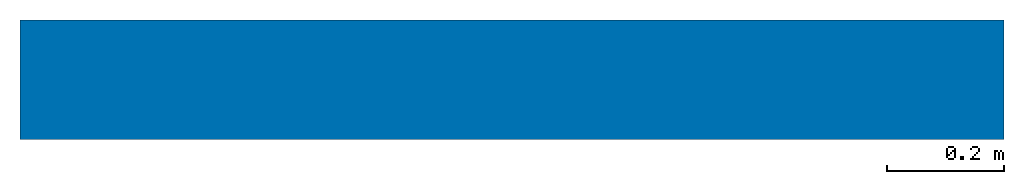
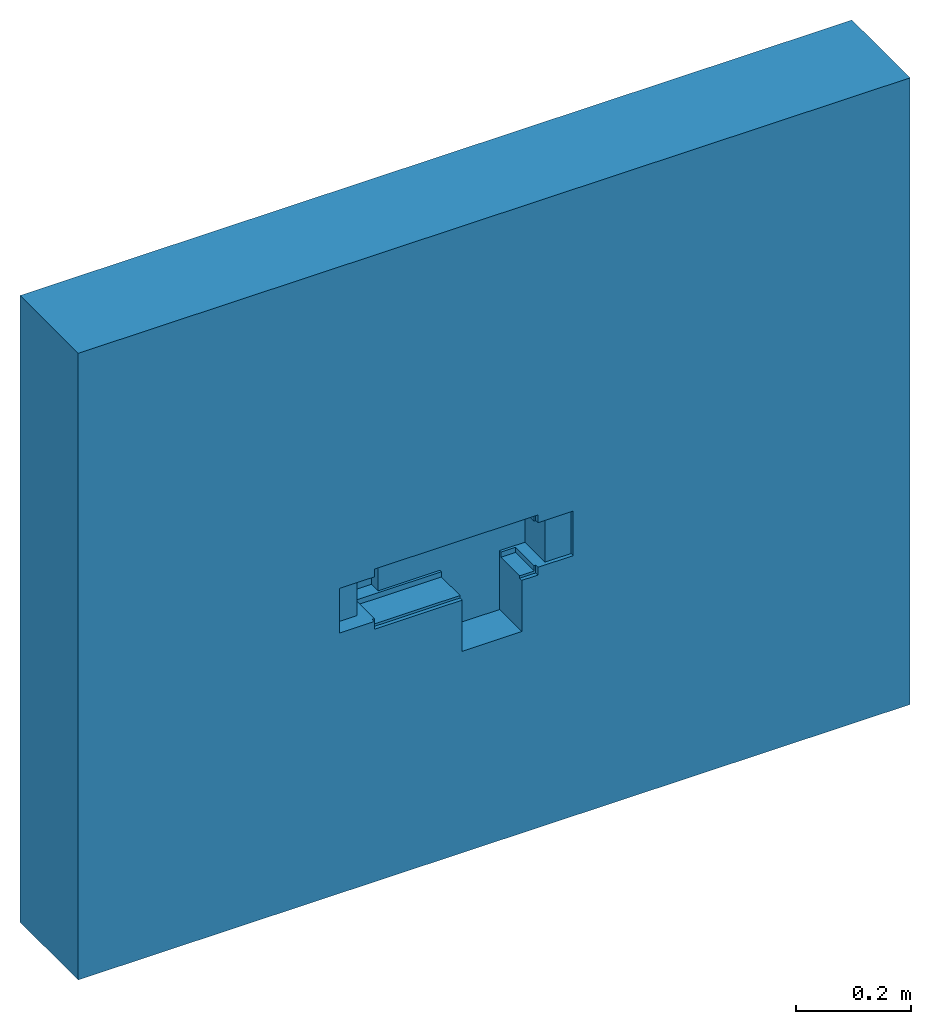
# One storey: 1 wall, 1 opening.
"""IFC2X3 building model written with IfcOpenShell, lengths in feet."""

from ifc_helpers import new_model, entity, si_unit, converted_unit, derived_unit, direction, frame, frame_2d, origin, place, context, subcontext, project, spatial, rectangle, extrude, faceted_brep, material, layer, layer_set, layer_usage, type_object, element, save


model = new_model("IFC2X3")

# Units and contexts
model_context = context("Model", 3, precision=0.0001, world=origin(), true_north=direction((6.12303176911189e-17, 1.0)))
body_context = subcontext(model_context, "Body", "Model", "MODEL_VIEW")
ifc_project = project(units=[converted_unit("LENGTHUNIT", "FOOT", entity("IfcRatioMeasure", 0.3048), si_unit("LENGTHUNIT", "METRE"), dimensions=[1, 0, 0, 0, 0, 0, 0]), converted_unit("AREAUNIT", "SQUARE FOOT", entity("IfcRatioMeasure", 0.09290304), si_unit("AREAUNIT", "SQUARE_METRE"), dimensions=[2, 0, 0, 0, 0, 0, 0]), converted_unit("VOLUMEUNIT", "CUBIC FOOT", entity("IfcRatioMeasure", 0.028316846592), si_unit("VOLUMEUNIT", "CUBIC_METRE"), dimensions=[3, 0, 0, 0, 0, 0, 0]), converted_unit("PLANEANGLEUNIT", "DEGREE", entity("IfcRatioMeasure", 0.0174532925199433), si_unit("PLANEANGLEUNIT", "RADIAN"), dimensions=[0, 0, 0, 0, 0, 0, 0]), si_unit("MASSUNIT", "GRAM", prefix="KILO"), derived_unit("MASSDENSITYUNIT", [(si_unit("MASSUNIT", "GRAM", prefix="KILO"), 1), (si_unit("LENGTHUNIT", "METRE"), -3)]), si_unit("TIMEUNIT", "SECOND"), si_unit("FREQUENCYUNIT", "HERTZ"), si_unit("THERMODYNAMICTEMPERATUREUNIT", "DEGREE_CELSIUS"), derived_unit("THERMALTRANSMITTANCEUNIT", [(si_unit("MASSUNIT", "GRAM", prefix="KILO"), 1), (si_unit("THERMODYNAMICTEMPERATUREUNIT", "KELVIN"), -1), (si_unit("TIMEUNIT", "SECOND"), -3)]), derived_unit("VOLUMETRICFLOWRATEUNIT", [(si_unit("LENGTHUNIT", "METRE"), 3), (si_unit("TIMEUNIT", "SECOND"), -1)]), si_unit("ELECTRICCURRENTUNIT", "AMPERE"), si_unit("ELECTRICVOLTAGEUNIT", "VOLT"), si_unit("POWERUNIT", "WATT"), si_unit("FORCEUNIT", "NEWTON"), si_unit("ILLUMINANCEUNIT", "LUX"), si_unit("LUMINOUSFLUXUNIT", "LUMEN"), si_unit("LUMINOUSINTENSITYUNIT", "CANDELA"), derived_unit("USERDEFINED", [(si_unit("MASSUNIT", "GRAM", prefix="KILO"), -1), (si_unit("LENGTHUNIT", "METRE"), -2), (si_unit("TIMEUNIT", "SECOND"), 3), (si_unit("LUMINOUSFLUXUNIT", "LUMEN"), 1)]), derived_unit("LINEARVELOCITYUNIT", [(si_unit("LENGTHUNIT", "METRE"), 1), (si_unit("TIMEUNIT", "SECOND"), -1)]), si_unit("PRESSUREUNIT", "PASCAL"), derived_unit("USERDEFINED", [(si_unit("LENGTHUNIT", "METRE"), -2), (si_unit("MASSUNIT", "GRAM", prefix="KILO"), 1), (si_unit("TIMEUNIT", "SECOND"), -2)])], contexts=[model_context])

# Site, building, storey
site_placement = place(None, origin())
site = spatial("IfcSite", under=ifc_project, at=site_placement, Name="Default", CompositionType="ELEMENT")
building_placement = place(site_placement, origin())
building = spatial("IfcBuilding", under=site, at=building_placement, CompositionType="ELEMENT")
storey_placement = place(building_placement, origin())
storey = spatial("IfcBuildingStorey", under=building, at=storey_placement, Name="Level 1", CompositionType="ELEMENT", Elevation=0.0)

# Wall, opening
ifc_material = material(Name="Default Wall")
ifc_layer = layer(ifc_material, 0.666666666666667)
ifc_layer_set = layer_set([ifc_layer], Name="Basic Wall:Generic - 8\"")
ifc_layer_usage = layer_usage(ifc_layer_set, "AXIS2", "NEGATIVE", 0.333333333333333)
wall_type = type_object("IfcWallType", Name="Basic Wall:Generic - 8\"", PredefinedType="STANDARD", material=ifc_layer_set)
wall_placement = place(storey_placement, frame((-4.51820742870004, 8.07151339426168, 0.0)))
wall = element("IfcWallStandardCase", 1, at=wall_placement, inside=storey, type_object=wall_type, material=ifc_layer_usage, Name="Basic Wall:Generic - 8\"", ObjectType="Basic Wall:Generic - 8\"", context=body_context, shape_type="SweptSolid", body=[
    extrude(rectangle(XDim=5.5, YDim=0.666666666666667, at=frame_2d((2.75, 4.16333634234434e-16), x_axis=(-1.0, 0.0))), origin(), (0.0, 0.0, 1.0), 4.38004442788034),
])
opening_placement = place(wall_placement, frame((1.72736220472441, -0.49737532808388, 1.40871042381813)))
element("IfcOpeningElement", 2, at=opening_placement, cuts=wall, Name="Basic Wall:Generic - 8\"", ObjectType="Opening", context=body_context, shape_type="Brep", body=[
    faceted_brep([(0.0, 0.0, 0.411676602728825), (0.230120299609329, 0.0, 0.411676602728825), (0.230120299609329, 0.0, 0.357660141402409), (0.811326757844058, 0.0, 0.357660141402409), (0.811326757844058, 0.0, 0.0), (1.20502754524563, 0.0, 0.0), (1.20502754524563, 0.0, 0.357660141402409), (1.3115157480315, 0.0, 0.357660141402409), (1.3115157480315, 0.0, 0.411676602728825), (1.54527559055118, 0.0, 0.411676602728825), (1.54527559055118, 0.0, 0.723356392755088), (1.3115157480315, 0.0, 0.723356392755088), (1.3115157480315, 0.0, 0.777607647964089), (0.230120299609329, 0.0, 0.777607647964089), (0.230120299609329, 0.0, 0.723356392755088), (0.0, 0.0, 0.723356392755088), (0.0, 0.264107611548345, 0.411676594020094), (0.172244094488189, 0.264107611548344, 0.411676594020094), (0.172244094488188, 0.493766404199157, 0.411676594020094), (0.401902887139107, 0.493766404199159, 0.411676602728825), (0.401902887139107, 0.418307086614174, 0.411676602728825), (0.811326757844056, 0.418307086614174, 0.411676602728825), (0.811326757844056, 0.401902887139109, 0.411676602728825), (0.244422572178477, 0.401902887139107, 0.411676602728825), (0.244422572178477, 0.188648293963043, 0.411676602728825), (0.230120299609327, 0.188648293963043, 0.411676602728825), (0.0, 0.264107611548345, 0.723356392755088), (0.230120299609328, 0.188648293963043, 0.723356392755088), (0.244422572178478, 0.188648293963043, 0.723356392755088), (0.244422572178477, 0.401902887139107, 0.723356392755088), (1.3008530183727, 0.40190288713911, 0.723356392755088), (1.3008530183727, 0.188648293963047, 0.723356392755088), (1.3115157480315, 0.188648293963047, 0.723356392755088), (1.54527559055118, 0.188648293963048, 0.723356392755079), (1.37303149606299, 0.188648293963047, 0.723356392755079), (1.37303149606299, 0.418307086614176, 0.723356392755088), (0.401902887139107, 0.418307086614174, 0.723356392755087), (0.401902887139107, 0.493766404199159, 0.723356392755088), (0.172244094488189, 0.493766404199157, 0.723356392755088), (0.17224409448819, 0.264107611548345, 0.723356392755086), (1.54527559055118, 0.188648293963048, 0.411676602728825), (1.37303149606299, 0.188648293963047, 0.411676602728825), (0.401902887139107, 0.493766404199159, 0.411676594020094), (1.37303149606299, 0.418307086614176, 0.411676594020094), (1.20502754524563, 0.418307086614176, 0.411676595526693), (1.20502754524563, 0.418307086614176, 0.0), (0.811326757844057, 0.418307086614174, 0.0), (0.811326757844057, 0.418307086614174, 0.411676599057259), (0.401902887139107, 0.418307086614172, 0.411676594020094), (1.3008530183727, 0.40190288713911, 0.760101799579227), (0.244422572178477, 0.401902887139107, 0.760101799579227), (0.244422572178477, 0.401902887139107, 0.374931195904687), (0.811326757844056, 0.401902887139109, 0.374931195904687), (0.811326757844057, 0.188648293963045, 0.374931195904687), (0.244422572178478, 0.188648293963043, 0.374931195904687), (0.244422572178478, 0.188648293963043, 0.760101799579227), (1.3008530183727, 0.188648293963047, 0.760101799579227), (1.3115157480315, 0.188648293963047, 0.777607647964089), (0.230120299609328, 0.188648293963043, 0.777607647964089), (0.230120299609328, 0.188648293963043, 0.357660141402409), (0.811326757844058, 0.188648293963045, 0.357660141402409), (1.3115157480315, 0.188648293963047, 0.357660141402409), (1.3115157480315, 0.188648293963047, 0.411676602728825), (1.20502754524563, 0.418307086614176, 0.411676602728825), (1.20502754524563, 0.40190288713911, 0.411676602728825), (1.20502754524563, 0.40190288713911, 0.374931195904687), (1.20502754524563, 0.188648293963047, 0.374931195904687), (1.20502754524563, 0.188648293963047, 0.357660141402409), (1.3008530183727, 0.188648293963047, 0.374931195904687), (1.3008530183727, 0.188648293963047, 0.411676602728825), (1.3008530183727, 0.40190288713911, 0.411676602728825), (1.3008530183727, 0.40190288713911, 0.374931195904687), (1.37303149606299, 0.418307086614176, 0.411676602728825)], [[[0, 1, 2, 3, 4, 5, 6, 7, 8, 9, 10, 11, 12, 13, 14, 15]], [[16, 17, 18, 19, 20, 21, 22, 23, 24, 25, 1, 0]], [[15, 26, 16, 0]], [[15, 14, 27, 28, 29, 30, 31, 32, 11, 10, 33, 34, 35, 36, 37, 38, 39, 26]], [[9, 40, 33, 10]], [[26, 39, 17, 16]], [[40, 41, 34, 33]], [[42, 18, 38, 37]], [[18, 17, 39, 38]], [[37, 36, 20, 42]], [[43, 44, 45, 46, 47, 48, 36, 35]], [[35, 34, 41, 43]], [[49, 30, 29, 50]], [[51, 52, 53, 54]], [[51, 54, 24, 23]], [[50, 55, 56, 49]], [[49, 56, 31, 30]], [[57, 32, 31, 56, 55, 28, 27, 58]], [[59, 60, 3, 2]], [[58, 27, 14, 13]], [[58, 13, 12, 57]], [[61, 62, 8, 7]], [[45, 5, 4, 46]], [[4, 3, 60, 53, 52, 22, 47, 46]], [[45, 63, 64, 65, 66, 67, 6, 5]], [[12, 11, 32, 57]], [[2, 1, 25, 59]], [[7, 6, 67, 61]], [[61, 67, 66, 68, 69, 62]], [[25, 24, 54, 53, 60, 59]], [[70, 69, 68, 71]], [[29, 28, 55, 50]], [[68, 66, 65, 71]], [[71, 65, 64, 70]], [[23, 22, 52, 51]], [[9, 8, 62, 69, 70, 64, 44, 72, 41, 40]]]),
])

save(model, "model.ifc")
